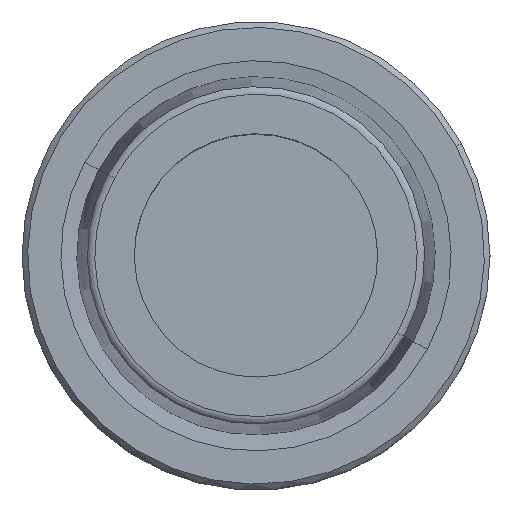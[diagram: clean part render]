
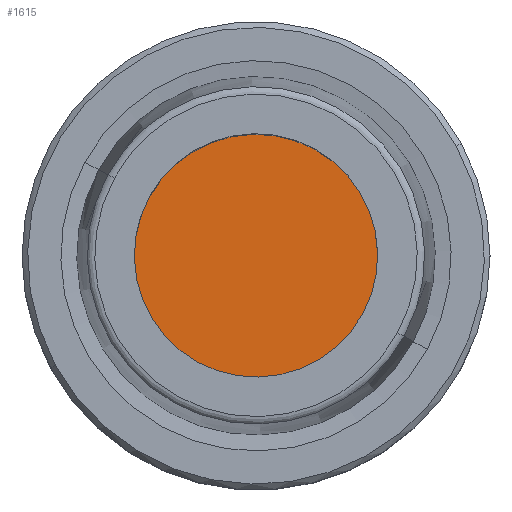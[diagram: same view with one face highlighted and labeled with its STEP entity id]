
A CAD part, top view. The second image highlights one B-rep face of the part: STEP entity #1615.
In plain terms, the highlighted planar face has unit normal (0, 0, 1).
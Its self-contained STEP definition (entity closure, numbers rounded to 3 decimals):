
#1584=AXIS2_PLACEMENT_3D('Circle Axis2P3D',#1582,#1583,$) ;
#1596=AXIS2_PLACEMENT_3D('Circle Axis2P3D',#1594,#1595,$) ;
#1609=AXIS2_PLACEMENT_3D('Plane Axis2P3D',#1606,#1607,#1608) ;
#1572=CARTESIAN_POINT('Vertex',(11.409,-6.233,-10.)) ;
#1579=CARTESIAN_POINT('Vertex',(-11.409,6.233,-10.)) ;
#1582=CARTESIAN_POINT('Axis2P3D Location',(0.,0.,-10.)) ;
#1594=CARTESIAN_POINT('Axis2P3D Location',(0.,0.,-10.)) ;
#1606=CARTESIAN_POINT('Axis2P3D Location',(-11.8,0.,-10.)) ;
#1583=DIRECTION('Axis2P3D Direction',(0.,0.,-1.)) ;
#1595=DIRECTION('Axis2P3D Direction',(0.,0.,-1.)) ;
#1607=DIRECTION('Axis2P3D Direction',(0.,0.,-1.)) ;
#1608=DIRECTION('Axis2P3D XDirection',(0.,1.,0.)) ;
#1612=ORIENTED_EDGE('',*,*,#1586,.F.) ;
#1613=ORIENTED_EDGE('',*,*,#1598,.F.) ;
#1615=ADVANCED_FACE('NOCUT',(#1614),#1610,.F.) ;
#1585=CIRCLE('generated circle',#1584,13.) ;
#1597=CIRCLE('generated circle',#1596,13.) ;
#1586=EDGE_CURVE('',#1580,#1573,#1585,.T.) ;
#1598=EDGE_CURVE('',#1573,#1580,#1597,.T.) ;
#1611=EDGE_LOOP('',(#1612,#1613)) ;
#1614=FACE_OUTER_BOUND('',#1611,.T.) ;
#1610=PLANE('',#1609) ;
#1573=VERTEX_POINT('',#1572) ;
#1580=VERTEX_POINT('',#1579) ;
